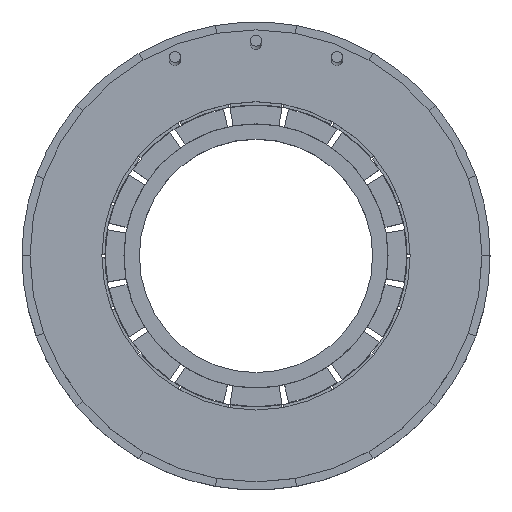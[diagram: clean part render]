
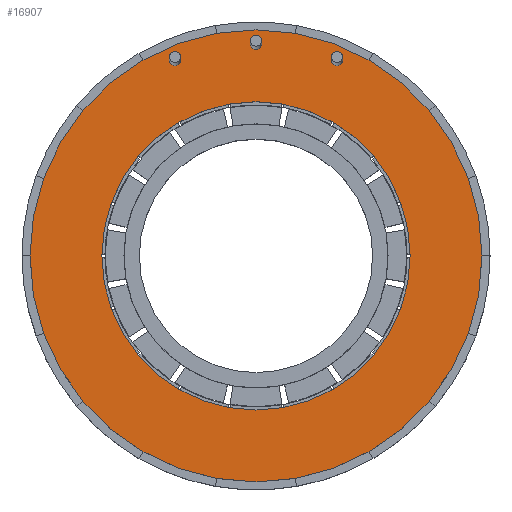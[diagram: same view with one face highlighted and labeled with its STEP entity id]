
A CAD part, top view. The second image highlights one B-rep face of the part: STEP entity #16907.
In plain terms, the highlighted planar face has unit normal (0, 0, 1).
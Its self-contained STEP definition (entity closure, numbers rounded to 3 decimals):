
#168 = VERTEX_POINT ( 'NONE', #5492 ) ;
#434 = DIRECTION ( 'NONE',  ( 1., 0., 0. ) ) ;
#613 = CARTESIAN_POINT ( 'NONE',  ( 7.953, -77.979, 292.613 ) ) ;
#674 = CIRCLE ( 'NONE', #15205, 0.905 ) ;
#708 = ORIENTED_EDGE ( 'NONE', *, *, #15136, .T. ) ;
#884 = EDGE_LOOP ( 'NONE', ( #13656, #15526 ) ) ;
#1263 = DIRECTION ( 'NONE',  ( 1., 0., 0. ) ) ;
#1355 = CARTESIAN_POINT ( 'NONE',  ( 7.048, -77.979, 292.613 ) ) ;
#1419 = DIRECTION ( 'NONE',  ( 0., 0., 1. ) ) ;
#1426 = DIRECTION ( 'NONE',  ( 0., 0., 1. ) ) ;
#1930 = CARTESIAN_POINT ( 'NONE',  ( 8.858, -77.979, 292.613 ) ) ;
#2082 = EDGE_CURVE ( 'NONE', #6884, #8644, #674, .T. ) ;
#2090 = CARTESIAN_POINT ( 'NONE',  ( 21.156, -109.853, 292.613 ) ) ;
#2101 = DIRECTION ( 'NONE',  ( 1., 0., 0. ) ) ;
#2306 = VERTEX_POINT ( 'NONE', #1930 ) ;
#2465 = CIRCLE ( 'NONE', #15622, 36.8 ) ;
#2554 = FACE_BOUND ( 'NONE', #16134, .T. ) ;
#2728 = CARTESIAN_POINT ( 'NONE',  ( 57.956, -109.853, 292.613 ) ) ;
#2921 = CIRCLE ( 'NONE', #12532, 0.905 ) ;
#3073 = EDGE_CURVE ( 'NONE', #2306, #9944, #7263, .T. ) ;
#3335 = ORIENTED_EDGE ( 'NONE', *, *, #2082, .F. ) ;
#3364 = ORIENTED_EDGE ( 'NONE', *, *, #8203, .F. ) ;
#4476 = CARTESIAN_POINT ( 'NONE',  ( 7.953, -77.979, 292.613 ) ) ;
#4540 = EDGE_CURVE ( 'NONE', #13067, #9459, #2465, .T. ) ;
#4580 = DIRECTION ( 'NONE',  ( 0., 0., 1. ) ) ;
#4772 = CIRCLE ( 'NONE', #11066, 0.905 ) ;
#4909 = ORIENTED_EDGE ( 'NONE', *, *, #11878, .F. ) ;
#5140 = DIRECTION ( 'NONE',  ( 1., 0., 0. ) ) ;
#5250 = EDGE_CURVE ( 'NONE', #15587, #168, #11273, .T. ) ;
#5294 = CARTESIAN_POINT ( 'NONE',  ( 35.263, -77.979, 292.613 ) ) ;
#5433 = CARTESIAN_POINT ( 'NONE',  ( 33.453, -77.979, 292.613 ) ) ;
#5440 = CARTESIAN_POINT ( 'NONE',  ( 34.358, -77.979, 292.613 ) ) ;
#5492 = CARTESIAN_POINT ( 'NONE',  ( -3.944, -109.853, 292.613 ) ) ;
#6008 = AXIS2_PLACEMENT_3D ( 'NONE', #7768, #16683, #14042 ) ;
#6025 = CARTESIAN_POINT ( 'NONE',  ( 20.251, -75.353, 292.613 ) ) ;
#6350 = FACE_OUTER_BOUND ( 'NONE', #15507, .T. ) ;
#6670 = CARTESIAN_POINT ( 'NONE',  ( 21.156, -109.853, 292.613 ) ) ;
#6827 = AXIS2_PLACEMENT_3D ( 'NONE', #613, #9789, #434 ) ;
#6884 = VERTEX_POINT ( 'NONE', #5433 ) ;
#7263 = CIRCLE ( 'NONE', #14667, 0.905 ) ;
#7768 = CARTESIAN_POINT ( 'NONE',  ( 21.156, -75.353, 292.613 ) ) ;
#7887 = VERTEX_POINT ( 'NONE', #6025 ) ;
#7970 = DIRECTION ( 'NONE',  ( 1., 0., 0. ) ) ;
#8203 = EDGE_CURVE ( 'NONE', #13083, #7887, #4772, .T. ) ;
#8249 = AXIS2_PLACEMENT_3D ( 'NONE', #13175, #1426, #8895 ) ;
#8492 = CARTESIAN_POINT ( 'NONE',  ( -15.644, -109.853, 292.613 ) ) ;
#8606 = ORIENTED_EDGE ( 'NONE', *, *, #3073, .F. ) ;
#8644 = VERTEX_POINT ( 'NONE', #5294 ) ;
#8683 = DIRECTION ( 'NONE',  ( 1., 0., 0. ) ) ;
#8744 = CIRCLE ( 'NONE', #13386, 25.1 ) ;
#8895 = DIRECTION ( 'NONE',  ( 1., 0., 0. ) ) ;
#9038 = AXIS2_PLACEMENT_3D ( 'NONE', #6670, #15765, #5140 ) ;
#9459 = VERTEX_POINT ( 'NONE', #2728 ) ;
#9561 = CIRCLE ( 'NONE', #6008, 0.905 ) ;
#9739 = DIRECTION ( 'NONE',  ( 0., 0., 1. ) ) ;
#9789 = DIRECTION ( 'NONE',  ( 0., 0., 1. ) ) ;
#9944 = VERTEX_POINT ( 'NONE', #1355 ) ;
#10216 = ORIENTED_EDGE ( 'NONE', *, *, #4540, .T. ) ;
#10217 = EDGE_CURVE ( 'NONE', #8644, #6884, #2921, .T. ) ;
#10463 = FACE_BOUND ( 'NONE', #884, .T. ) ;
#11066 = AXIS2_PLACEMENT_3D ( 'NONE', #14749, #15857, #7970 ) ;
#11092 = CARTESIAN_POINT ( 'NONE',  ( 21.156, -109.853, 292.613 ) ) ;
#11204 = DIRECTION ( 'NONE',  ( 0., 0., 1. ) ) ;
#11273 = CIRCLE ( 'NONE', #8249, 25.1 ) ;
#11350 = EDGE_CURVE ( 'NONE', #7887, #13083, #9561, .T. ) ;
#11399 = CARTESIAN_POINT ( 'NONE',  ( 46.256, -109.853, 292.613 ) ) ;
#11571 = EDGE_CURVE ( 'NONE', #168, #15587, #8744, .T. ) ;
#11878 = EDGE_CURVE ( 'NONE', #9944, #2306, #13401, .T. ) ;
#12068 = ORIENTED_EDGE ( 'NONE', *, *, #10217, .F. ) ;
#12532 = AXIS2_PLACEMENT_3D ( 'NONE', #5440, #1419, #14534 ) ;
#12619 = AXIS2_PLACEMENT_3D ( 'NONE', #14819, #11204, #2101 ) ;
#12864 = PLANE ( 'NONE',  #9038 ) ;
#13014 = DIRECTION ( 'NONE',  ( 0., 0., 1. ) ) ;
#13067 = VERTEX_POINT ( 'NONE', #8492 ) ;
#13083 = VERTEX_POINT ( 'NONE', #13734 ) ;
#13175 = CARTESIAN_POINT ( 'NONE',  ( 21.156, -109.853, 292.613 ) ) ;
#13380 = EDGE_LOOP ( 'NONE', ( #4909, #8606 ) ) ;
#13386 = AXIS2_PLACEMENT_3D ( 'NONE', #2090, #9739, #13761 ) ;
#13401 = CIRCLE ( 'NONE', #6827, 0.905 ) ;
#13656 = ORIENTED_EDGE ( 'NONE', *, *, #11571, .F. ) ;
#13734 = CARTESIAN_POINT ( 'NONE',  ( 22.061, -75.353, 292.613 ) ) ;
#13761 = DIRECTION ( 'NONE',  ( 1., 0., 0. ) ) ;
#14042 = DIRECTION ( 'NONE',  ( 1., 0., 0. ) ) ;
#14146 = FACE_BOUND ( 'NONE', #13380, .T. ) ;
#14376 = CARTESIAN_POINT ( 'NONE',  ( 34.358, -77.979, 292.613 ) ) ;
#14534 = DIRECTION ( 'NONE',  ( 1., 0., 0. ) ) ;
#14667 = AXIS2_PLACEMENT_3D ( 'NONE', #4476, #16609, #15259 ) ;
#14749 = CARTESIAN_POINT ( 'NONE',  ( 21.156, -75.353, 292.613 ) ) ;
#14819 = CARTESIAN_POINT ( 'NONE',  ( 21.156, -109.853, 292.613 ) ) ;
#14856 = EDGE_LOOP ( 'NONE', ( #3335, #12068 ) ) ;
#15093 = CIRCLE ( 'NONE', #12619, 36.8 ) ;
#15136 = EDGE_CURVE ( 'NONE', #9459, #13067, #15093, .T. ) ;
#15205 = AXIS2_PLACEMENT_3D ( 'NONE', #14376, #13014, #1263 ) ;
#15259 = DIRECTION ( 'NONE',  ( 1., 0., 0. ) ) ;
#15507 = EDGE_LOOP ( 'NONE', ( #10216, #708 ) ) ;
#15526 = ORIENTED_EDGE ( 'NONE', *, *, #5250, .F. ) ;
#15587 = VERTEX_POINT ( 'NONE', #11399 ) ;
#15622 = AXIS2_PLACEMENT_3D ( 'NONE', #11092, #4580, #8683 ) ;
#15765 = DIRECTION ( 'NONE',  ( 0., 0., 1. ) ) ;
#15857 = DIRECTION ( 'NONE',  ( 0., 0., 1. ) ) ;
#16112 = ORIENTED_EDGE ( 'NONE', *, *, #11350, .F. ) ;
#16134 = EDGE_LOOP ( 'NONE', ( #16112, #3364 ) ) ;
#16609 = DIRECTION ( 'NONE',  ( 0., 0., 1. ) ) ;
#16683 = DIRECTION ( 'NONE',  ( 0., 0., 1. ) ) ;
#16865 = FACE_BOUND ( 'NONE', #14856, .T. ) ;
#16907 = ADVANCED_FACE ( 'NONE', ( #10463, #2554, #16865, #14146, #6350 ), #12864, .T. ) ;
